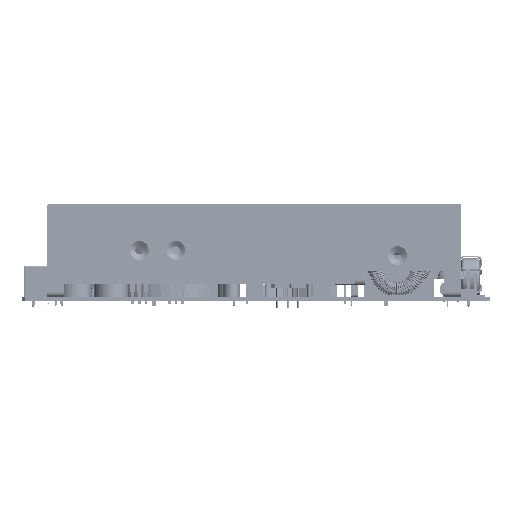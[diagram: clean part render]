
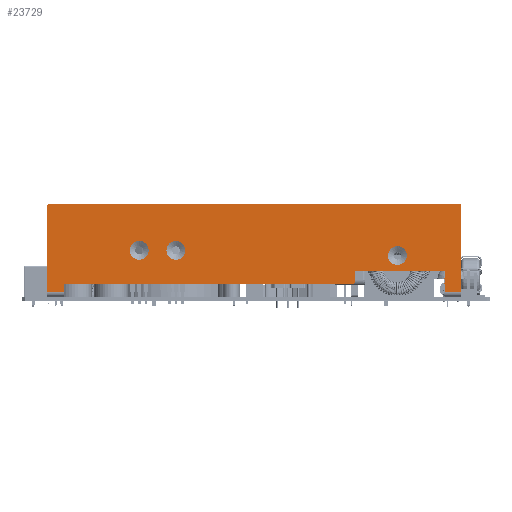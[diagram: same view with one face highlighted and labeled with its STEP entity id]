
A CAD part, front view. The second image highlights one B-rep face of the part: STEP entity #23729.
In plain terms, the highlighted planar face has unit normal (0, -1, 0) as drawn and (0, 0, -1) by its records, which use the part's own axes.
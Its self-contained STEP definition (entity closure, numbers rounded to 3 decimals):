
#22919=DIRECTION('',(0.,1.,0.));
#22920=VECTOR('',#22919,33.);
#22921=CARTESIAN_POINT('',(0.,2.,-2.));
#22922=LINE('',#22921,#22920);
#23017=CARTESIAN_POINT('',(24.6,16.,-2.));
#23018=DIRECTION('',(0.,0.,1.));
#23019=DIRECTION('',(0.,1.,0.));
#23020=AXIS2_PLACEMENT_3D('',#23017,#23018,#23019);
#23022=CARTESIAN_POINT('',(24.6,16.,-2.));
#23023=DIRECTION('',(0.,0.,1.));
#23024=DIRECTION('',(0.,-1.,0.));
#23025=AXIS2_PLACEMENT_3D('',#23022,#23023,#23024);
#23027=CARTESIAN_POINT('',(109.8,18.,-2.));
#23028=DIRECTION('',(0.,0.,1.));
#23029=DIRECTION('',(0.,1.,0.));
#23030=AXIS2_PLACEMENT_3D('',#23027,#23028,#23029);
#23032=CARTESIAN_POINT('',(109.8,18.,-2.));
#23033=DIRECTION('',(0.,0.,1.));
#23034=DIRECTION('',(0.,-1.,0.));
#23035=AXIS2_PLACEMENT_3D('',#23032,#23033,#23034);
#23037=CARTESIAN_POINT('',(123.9,18.,-2.));
#23038=DIRECTION('',(0.,0.,1.));
#23039=DIRECTION('',(0.,1.,0.));
#23040=AXIS2_PLACEMENT_3D('',#23037,#23038,#23039);
#23042=CARTESIAN_POINT('',(123.9,18.,-2.));
#23043=DIRECTION('',(0.,0.,1.));
#23044=DIRECTION('',(0.,-1.,0.));
#23045=AXIS2_PLACEMENT_3D('',#23042,#23043,#23044);
#23047=CARTESIAN_POINT('',(1.,35.,-2.));
#23048=DIRECTION('',(0.,0.,-1.));
#23049=DIRECTION('',(-1.,0.,0.));
#23050=AXIS2_PLACEMENT_3D('',#23047,#23048,#23049);
#23052=DIRECTION('',(1.,0.,0.));
#23053=VECTOR('',#23052,6.5);
#23054=CARTESIAN_POINT('',(0.,2.,-2.));
#23055=LINE('',#23054,#23053);
#23056=DIRECTION('',(-1.,0.,0.));
#23057=VECTOR('',#23056,34.3);
#23058=CARTESIAN_POINT('',(40.8,10.,-2.));
#23059=LINE('',#23058,#23057);
#23060=DIRECTION('',(0.,1.,0.));
#23061=VECTOR('',#23060,4.);
#23062=CARTESIAN_POINT('',(40.8,6.,-2.));
#23063=LINE('',#23062,#23061);
#23064=CARTESIAN_POINT('',(41.8,6.,-2.));
#23065=DIRECTION('',(0.,0.,-1.));
#23066=DIRECTION('',(0.,-1.,0.));
#23067=AXIS2_PLACEMENT_3D('',#23064,#23065,#23066);
#23069=DIRECTION('',(-1.,0.,0.));
#23070=VECTOR('',#23069,111.1);
#23071=CARTESIAN_POINT('',(152.9,5.,-2.));
#23072=LINE('',#23071,#23070);
#23073=DIRECTION('',(0.,1.,0.));
#23074=VECTOR('',#23073,3.);
#23075=CARTESIAN_POINT('',(152.9,2.,-2.));
#23076=LINE('',#23075,#23074);
#23077=DIRECTION('',(1.,0.,0.));
#23078=VECTOR('',#23077,6.5);
#23079=CARTESIAN_POINT('',(152.9,2.,-2.));
#23080=LINE('',#23079,#23078);
#23081=DIRECTION('',(0.,1.,0.));
#23082=VECTOR('',#23081,33.);
#23083=CARTESIAN_POINT('',(159.4,2.,-2.));
#23084=LINE('',#23083,#23082);
#23085=CARTESIAN_POINT('',(158.4,35.,-2.));
#23086=DIRECTION('',(0.,0.,-1.));
#23087=DIRECTION('',(0.,1.,0.));
#23088=AXIS2_PLACEMENT_3D('',#23085,#23086,#23087);
#23159=DIRECTION('',(0.,-1.,0.));
#23160=VECTOR('',#23159,8.);
#23161=CARTESIAN_POINT('',(6.5,10.,-2.));
#23162=LINE('',#23161,#23160);
#23250=DIRECTION('',(-1.,0.,0.));
#23251=VECTOR('',#23250,157.4);
#23252=CARTESIAN_POINT('',(158.4,36.,-2.));
#23253=LINE('',#23252,#23251);
#23279=CARTESIAN_POINT('',(152.9,5.,-2.));
#23281=VERTEX_POINT('',#23279);
#23294=CARTESIAN_POINT('',(40.8,10.,-2.));
#23295=CARTESIAN_POINT('',(6.5,10.,-2.));
#23296=VERTEX_POINT('',#23294);
#23297=VERTEX_POINT('',#23295);
#23299=CARTESIAN_POINT('',(6.5,2.,-2.));
#23301=VERTEX_POINT('',#23299);
#23302=CARTESIAN_POINT('',(0.,2.,-2.));
#23303=VERTEX_POINT('',#23302);
#23307=CARTESIAN_POINT('',(159.4,2.,-2.));
#23309=VERTEX_POINT('',#23307);
#23310=CARTESIAN_POINT('',(152.9,2.,-2.));
#23311=VERTEX_POINT('',#23310);
#23314=CARTESIAN_POINT('',(41.8,5.,-2.));
#23315=CARTESIAN_POINT('',(40.8,6.,-2.));
#23316=VERTEX_POINT('',#23314);
#23317=VERTEX_POINT('',#23315);
#23378=CARTESIAN_POINT('',(24.6,19.628,-2.));
#23379=CARTESIAN_POINT('',(24.6,12.372,-2.));
#23380=VERTEX_POINT('',#23378);
#23381=VERTEX_POINT('',#23379);
#23390=CARTESIAN_POINT('',(109.8,21.628,-2.));
#23391=CARTESIAN_POINT('',(109.8,14.372,-2.));
#23392=VERTEX_POINT('',#23390);
#23393=VERTEX_POINT('',#23391);
#23402=CARTESIAN_POINT('',(123.9,21.628,-2.));
#23403=CARTESIAN_POINT('',(123.9,14.372,-2.));
#23404=VERTEX_POINT('',#23402);
#23405=VERTEX_POINT('',#23403);
#23410=CARTESIAN_POINT('',(0.,35.,-2.));
#23411=VERTEX_POINT('',#23410);
#23412=CARTESIAN_POINT('',(1.,36.,-2.));
#23413=VERTEX_POINT('',#23412);
#23414=CARTESIAN_POINT('',(158.4,36.,-2.));
#23415=CARTESIAN_POINT('',(159.4,35.,-2.));
#23416=VERTEX_POINT('',#23414);
#23417=VERTEX_POINT('',#23415);
#23681=CARTESIAN_POINT('',(159.4,0.,-2.));
#23682=DIRECTION('',(0.,0.,-1.));
#23683=DIRECTION('',(-1.,0.,0.));
#23684=AXIS2_PLACEMENT_3D('',#23681,#23682,#23683);
#23685=PLANE('',#23684);
#23686=ORIENTED_EDGE('',*,*,#23582,.F.);
#23687=ORIENTED_EDGE('',*,*,#23569,.F.);
#23689=ORIENTED_EDGE('',*,*,#23688,.T.);
#23691=ORIENTED_EDGE('',*,*,#23690,.F.);
#23693=ORIENTED_EDGE('',*,*,#23692,.F.);
#23695=ORIENTED_EDGE('',*,*,#23694,.F.);
#23697=ORIENTED_EDGE('',*,*,#23696,.F.);
#23699=ORIENTED_EDGE('',*,*,#23698,.F.);
#23701=ORIENTED_EDGE('',*,*,#23700,.F.);
#23703=ORIENTED_EDGE('',*,*,#23702,.T.);
#23705=ORIENTED_EDGE('',*,*,#23704,.T.);
#23707=ORIENTED_EDGE('',*,*,#23706,.F.);
#23709=ORIENTED_EDGE('',*,*,#23708,.T.);
#23710=EDGE_LOOP('',(#23686,#23687,#23689,#23691,#23693,#23695,#23697,#23699,
#23701,#23703,#23705,#23707,#23709));
#23711=FACE_OUTER_BOUND('',#23710,.F.);
#23713=ORIENTED_EDGE('',*,*,#23712,.F.);
#23715=ORIENTED_EDGE('',*,*,#23714,.F.);
#23716=EDGE_LOOP('',(#23713,#23715));
#23717=FACE_BOUND('',#23716,.F.);
#23719=ORIENTED_EDGE('',*,*,#23718,.F.);
#23721=ORIENTED_EDGE('',*,*,#23720,.F.);
#23722=EDGE_LOOP('',(#23719,#23721));
#23723=FACE_BOUND('',#23722,.F.);
#23725=ORIENTED_EDGE('',*,*,#23724,.F.);
#23726=ORIENTED_EDGE('',*,*,#23671,.F.);
#23727=EDGE_LOOP('',(#23725,#23726));
#23728=FACE_BOUND('',#23727,.F.);
#23021=CIRCLE('',#23020,3.628);
#23026=CIRCLE('',#23025,3.628);
#23031=CIRCLE('',#23030,3.628);
#23036=CIRCLE('',#23035,3.628);
#23041=CIRCLE('',#23040,3.628);
#23046=CIRCLE('',#23045,3.628);
#23051=CIRCLE('',#23050,1.);
#23068=CIRCLE('',#23067,1.);
#23089=CIRCLE('',#23088,1.);
#23569=EDGE_CURVE('',#23303,#23411,#22922,.T.);
#23582=EDGE_CURVE('',#23411,#23413,#23051,.T.);
#23671=EDGE_CURVE('',#23381,#23380,#23026,.T.);
#23688=EDGE_CURVE('',#23303,#23301,#23055,.T.);
#23690=EDGE_CURVE('',#23297,#23301,#23162,.T.);
#23692=EDGE_CURVE('',#23296,#23297,#23059,.T.);
#23694=EDGE_CURVE('',#23317,#23296,#23063,.T.);
#23696=EDGE_CURVE('',#23316,#23317,#23068,.T.);
#23698=EDGE_CURVE('',#23281,#23316,#23072,.T.);
#23700=EDGE_CURVE('',#23311,#23281,#23076,.T.);
#23702=EDGE_CURVE('',#23311,#23309,#23080,.T.);
#23704=EDGE_CURVE('',#23309,#23417,#23084,.T.);
#23706=EDGE_CURVE('',#23416,#23417,#23089,.T.);
#23708=EDGE_CURVE('',#23416,#23413,#23253,.T.);
#23712=EDGE_CURVE('',#23392,#23393,#23031,.T.);
#23714=EDGE_CURVE('',#23393,#23392,#23036,.T.);
#23718=EDGE_CURVE('',#23404,#23405,#23041,.T.);
#23720=EDGE_CURVE('',#23405,#23404,#23046,.T.);
#23724=EDGE_CURVE('',#23380,#23381,#23021,.T.);
#23729=ADVANCED_FACE('',(#23711,#23717,#23723,#23728),#23685,.T.);
